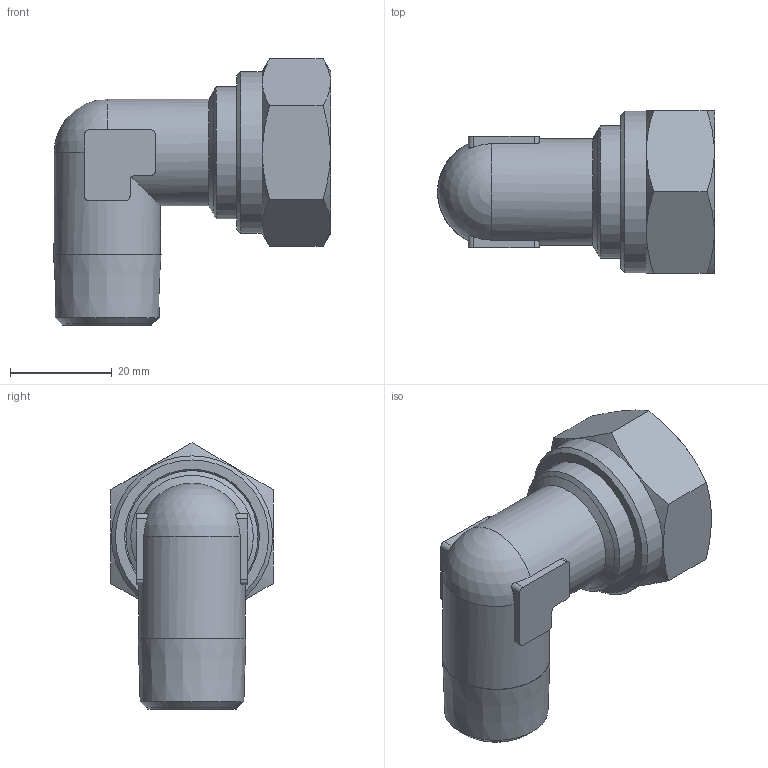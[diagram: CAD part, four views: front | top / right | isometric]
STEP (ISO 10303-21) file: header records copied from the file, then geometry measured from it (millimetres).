
FILE_DESCRIPTION(('Bauteilbeschreibung','HiCAD-Model','HiCAD-STEP-TRANSLATION','Bauteilbeschreibung'),'2;1');
FILE_NAME('B:/ABGLEICH/ZEICHNUNGEN/STEP FÜR INTERNET/STEP/205/92814_205_18_1-2.STP','2011-10-14T08:37:30+00:00',('Konstrukteur'),('Konstrukteur Firma GmbH'),' HiCAD neXt 2008, Step 3.1.1401.2J ','HiCAD neXt 2008','confidential');
FILE_SCHEMA(('AUTOMOTIVE_DESIGN { 1 2 10303 214 0 1 1 1 }'));
Length unit declared in the file: millimetre
Products named in the file (8): A2814_205_18_1_2; A2814; A28140; R 1_2_14; DIN 13_M26X1_5; A6809; A68090; DIN0130M26X105
Assembly tree (7 placements, depth 3):
  A2814_205_18_1_2
    A2814
    A28140
      R 1_2_14
      DIN 13_M26X1_5
    A6809
    A68090
      DIN0130M26X105
Bounding box: 54.6 x 32 x 52.48 mm (x, y, z)
Volume: 19544.5 mm3; surface area: 17493.3 mm2
Topology: 5 solids, 5 shells, 83 faces, 213 edges, 140 vertices
Faces by surface type: plane 29, cylinder 29, cone 24, sphere 1
Full cylindrical faces by diameter (mm): 15 x1, 16 x1, 18 x2, 21 x2, 24.16 x4, 26 x3, 31.8 x1
Entity records: 5921 total; most frequent: CARTESIAN_POINT 3330, DIRECTION 372, ORIENTED_EDGE 316, AXIS2_PLACEMENT_3D 161, EDGE_CURVE 158, COLOUR_RGB 132, PRESENTATION_STYLE_ASSIGNMENT 132, CURVE_STYLE 127
